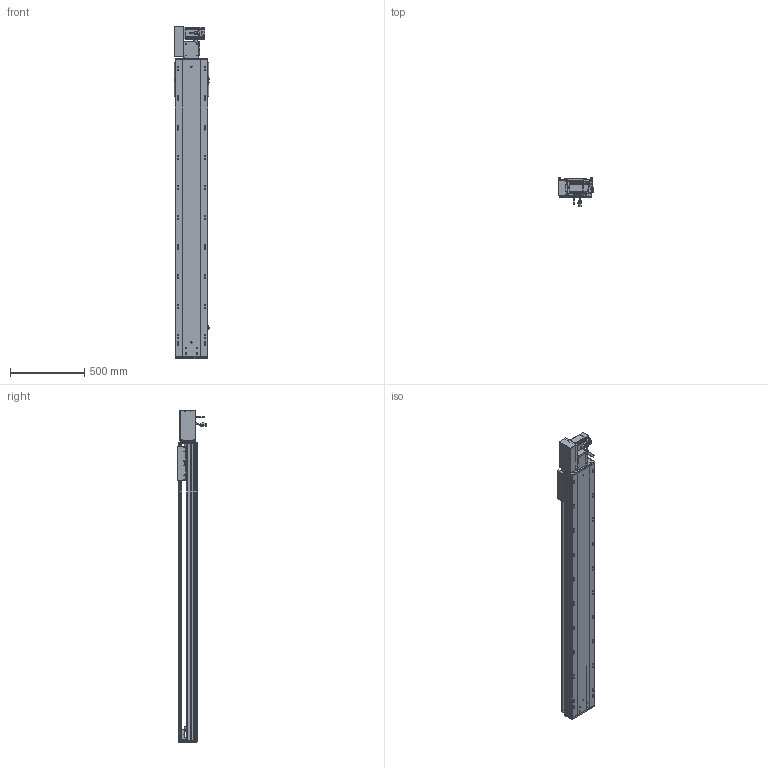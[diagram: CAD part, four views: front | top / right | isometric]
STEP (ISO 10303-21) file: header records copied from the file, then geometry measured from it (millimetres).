
FILE_DESCRIPTION (( 'STEP AP203' ), '1' );
FILE_NAME ('RY220-T-300-LK.SLDASM_1650.step', '2022-07-25T08:14:45', ( '' ), ( '' ), 'SwSTEP 2.0', 'SolidWorks 2016', '' );
FILE_SCHEMA (( 'CONFIG_CONTROL_DESIGN' ));
Length unit declared in the file: millimetre
Products named in the file (14): RY220-T-300-LK.SLDASM_1650; 滅袉蝶18-15; RY220-T-300-奻裔啣_1650; RY220圉猾敕々湍臏賑輸; RY220-T-蛌殏萇儂假蚾啣(750W); RY220翋肮祭謫釱; 覜茼ん672; 怢湛750W_ECMA-CX0807ES; RY220-俋离672覜茼んえ; 110A-T-肮祭謫釱傷裔; RY220-同步轮副支撑座6304×2; RY220-T菁釱-300_1650; RY220翋肮祭謫裔啣; RY220-T-湍謫欶(鍼踢)
Assembly tree (18 placements, depth 2):
  RY220-T-300-LK.SLDASM_1650
    RY220-T菁釱-300_1650
    RY220翋肮祭謫釱
    覜茼ん672  x3
    RY220圉猾敕々湍臏賑輸
    RY220-T-300-奻裔啣_1650
    RY220-俋离672覜茼んえ
    滅袉蝶18-15  x3
    RY220翋肮祭謫裔啣  x2
    110A-T-肮祭謫釱傷裔
    怢湛750W_ECMA-CX0807ES
    RY220-T-湍謫欶(鍼踢)
    RY220-T-蛌殏萇儂假蚾啣(750W)
    RY220-同步轮副支撑座6304×2
Bounding box: 239.7 x 198.77 x 2229 mm (x, y, z)
Volume: 16463137 mm3; surface area: 4952333 mm2
Topology: 19 solids, 19 shells, 2768 faces, 7647 edges, 4828 vertices
Faces by surface type: cylinder 1324, plane 1069, cone 293, bspline 56, sphere 16, torus 10
Entity records: 92227 total; most frequent: CARTESIAN_POINT 26211, ORIENTED_EDGE 13690, DIRECTION 13044, EDGE_CURVE 6845, AXIS2_PLACEMENT_3D 4650, VERTEX_POINT 4452, LINE 3744, VECTOR 3744
